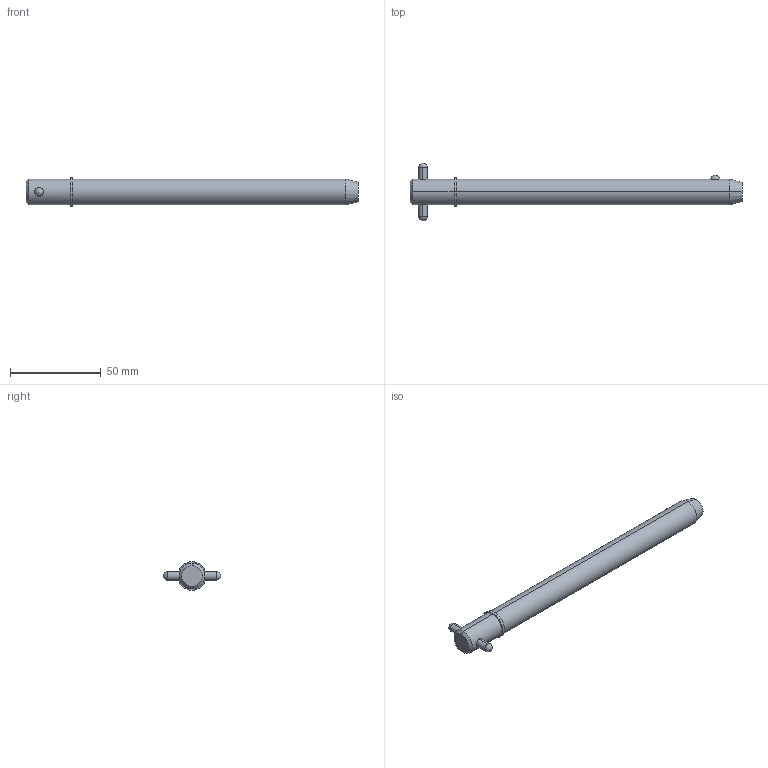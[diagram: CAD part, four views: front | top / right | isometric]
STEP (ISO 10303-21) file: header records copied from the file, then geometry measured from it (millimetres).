
FILE_DESCRIPTION (( 'STEP AP203' ), '1' );
FILE_NAME ('33018.W5655.step', '2024-11-19T17:17:33', ( '' ), ( '' ), 'SwSTEP 2.0', 'SolidWorks 2019', '' );
FILE_SCHEMA (( 'CONFIG_CONTROL_DESIGN' ));
Length unit declared in the file: millimetre
Products named in the file (3): Part1_33018.W5655; 33018.W5655; Part2_33018.W5655
Assembly tree (2 placements, depth 2):
  33018.W5655
    Part1_33018.W5655
    Part2_33018.W5655
Bounding box: 182.85 x 31.75 x 15.72 mm (x, y, z)
Volume: 29401.5 mm3; surface area: 9127.1 mm2
Topology: 2 solids, 2 shells, 22 faces, 47 edges, 30 vertices
Faces by surface type: cylinder 10, sphere 4, cone 4, plane 4
Entity records: 1033 total; most frequent: CARTESIAN_POINT 276, DIRECTION 110, ORIENTED_EDGE 82, AXIS2_PLACEMENT_3D 48, EDGE_CURVE 41, EDGE_LOOP 27, PERSON_AND_ORGANIZATION 26, VERTEX_POINT 26
